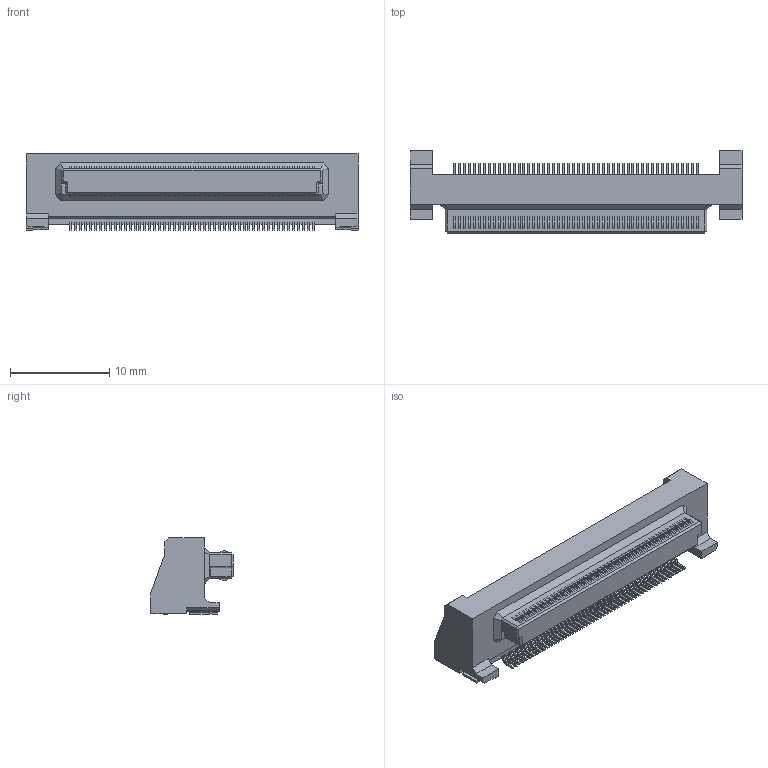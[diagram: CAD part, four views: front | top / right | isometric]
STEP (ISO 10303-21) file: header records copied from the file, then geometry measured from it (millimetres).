
FILE_DESCRIPTION(('Creo Elements/Direct Modeling STEP Export'),'2;1');
FILE_NAME('DY10-100L.stp','2017-11-30T16:13:39',(''),(''),'Creo Elements/Direct Modeling STEP processor for AP214 (Solid Model)','Creo Elements/Direct Modeling 19.0F 14-Feb-2017 (C) Parametric Technology GmbH','');
FILE_SCHEMA(('AUTOMOTIVE_DESIGN { 1 0 10303 214 1 1 1 1 }'));
Length unit declared in the file: millimetre
Products named in the file (2): DY10-100L
Assembly tree (1 placements, depth 2):
  DY10-100L
    DY10-100L
Bounding box: 33.5 x 8.3 x 7.7 mm (x, y, z)
Volume: 979.6 mm3; surface area: 1171.3 mm2
Topology: 1 solids, 1 shells, 1647 faces, 4498 edges, 2956 vertices
Faces by surface type: plane 1143, cylinder 504
Entity records: 51841 total; most frequent: CARTESIAN_POINT 9103, ORIENTED_EDGE 8996, DIRECTION 8804, EDGE_CURVE 4498, VECTOR 3490, LINE 3490, VERTEX_POINT 2956, AXIS2_PLACEMENT_3D 2657
